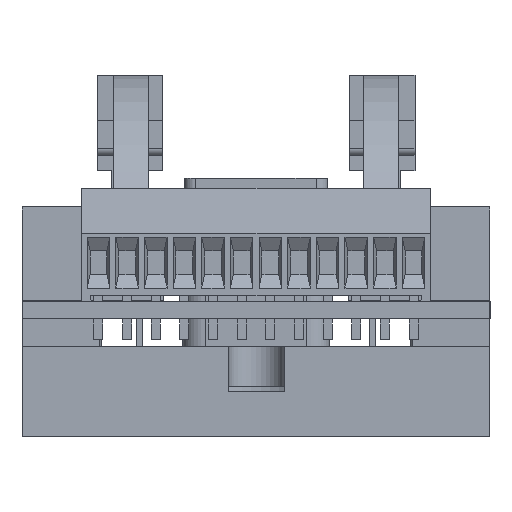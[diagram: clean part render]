
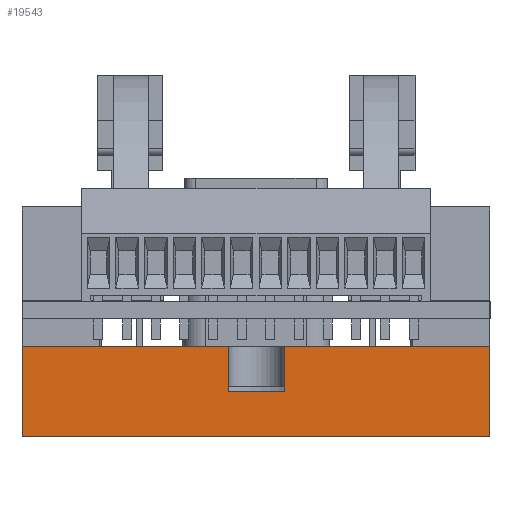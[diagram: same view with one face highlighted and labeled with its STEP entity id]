
A CAD part, front view. The second image highlights one B-rep face of the part: STEP entity #19543.
In plain terms, the highlighted planar face has unit normal (0, -1, 0) as drawn and (0, 1, 0) by its records, which use the part's own axes.
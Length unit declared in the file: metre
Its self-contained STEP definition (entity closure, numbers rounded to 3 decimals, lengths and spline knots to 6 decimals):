
#1706=LINE('',#31212,#3933);
#1707=LINE('',#31215,#3934);
#1708=LINE('',#31217,#3935);
#1709=LINE('',#31219,#3936);
#1710=LINE('',#31221,#3937);
#1711=LINE('',#31223,#3938);
#1712=LINE('',#31225,#3939);
#1713=LINE('',#31227,#3940);
#3933=VECTOR('',#25795,1.);
#3934=VECTOR('',#25796,1.);
#3935=VECTOR('',#25797,1.);
#3936=VECTOR('',#25798,1.);
#3937=VECTOR('',#25799,1.);
#3938=VECTOR('',#25800,1.);
#3939=VECTOR('',#25801,1.);
#3940=VECTOR('',#25802,1.);
#7657=ORIENTED_EDGE('',*,*,#11623,.F.);
#7658=ORIENTED_EDGE('',*,*,#11624,.T.);
#7659=ORIENTED_EDGE('',*,*,#11625,.F.);
#7660=ORIENTED_EDGE('',*,*,#11626,.F.);
#7661=ORIENTED_EDGE('',*,*,#11627,.T.);
#7662=ORIENTED_EDGE('',*,*,#11628,.T.);
#7663=ORIENTED_EDGE('',*,*,#11629,.F.);
#7664=ORIENTED_EDGE('',*,*,#11630,.F.);
#11623=EDGE_CURVE('',#13849,#13850,#1706,.T.);
#11624=EDGE_CURVE('',#13849,#13851,#1707,.T.);
#11625=EDGE_CURVE('',#13852,#13851,#1708,.T.);
#11626=EDGE_CURVE('',#13853,#13852,#1709,.T.);
#11627=EDGE_CURVE('',#13853,#13854,#1710,.T.);
#11628=EDGE_CURVE('',#13854,#13855,#1711,.T.);
#11629=EDGE_CURVE('',#13856,#13855,#1712,.T.);
#11630=EDGE_CURVE('',#13850,#13856,#1713,.T.);
#13849=VERTEX_POINT('',#31213);
#13850=VERTEX_POINT('',#31214);
#13851=VERTEX_POINT('',#31216);
#13852=VERTEX_POINT('',#31218);
#13853=VERTEX_POINT('',#31220);
#13854=VERTEX_POINT('',#31222);
#13855=VERTEX_POINT('',#31224);
#13856=VERTEX_POINT('',#31226);
#15894=EDGE_LOOP('',(#7657,#7658,#7659,#7660,#7661,#7662,#7663,#7664));
#17350=FACE_BOUND('',#15894,.T.);
#18497=PLANE('',#22399);
#19543=ADVANCED_FACE('',(#17350),#18497,.T.);
#22399=AXIS2_PLACEMENT_3D('',#31211,#25793,#25794);
#25793=DIRECTION('',(0.,1.,0.));
#25794=DIRECTION('',(-1.,0.,0.));
#25795=DIRECTION('',(1.,0.,0.));
#25796=DIRECTION('',(0.,0.,-1.));
#25797=DIRECTION('',(1.,0.,0.));
#25798=DIRECTION('',(0.,0.,-1.));
#25799=DIRECTION('',(1.,0.,0.));
#25800=DIRECTION('',(0.,0.,-1.));
#25801=DIRECTION('',(1.,0.,0.));
#25802=DIRECTION('',(0.,0.,-1.));
#31211=CARTESIAN_POINT('',(0.,0.022,0.0105));
#31212=CARTESIAN_POINT('',(0.,0.022,0.0065));
#31213=CARTESIAN_POINT('',(-0.002482,0.022,0.0065));
#31214=CARTESIAN_POINT('',(0.0025,0.022,0.0065));
#31215=CARTESIAN_POINT('',(-0.002482,0.022,0.0065));
#31216=CARTESIAN_POINT('',(-0.002482,0.022,0.0025));
#31217=CARTESIAN_POINT('',(0.,0.022,0.0025));
#31218=CARTESIAN_POINT('',(-0.02075,0.022,0.0025));
#31219=CARTESIAN_POINT('',(-0.02075,0.022,0.0105));
#31220=CARTESIAN_POINT('',(-0.02075,0.022,0.0105));
#31221=CARTESIAN_POINT('',(0.,0.022,0.0105));
#31222=CARTESIAN_POINT('',(0.02075,0.022,0.0105));
#31223=CARTESIAN_POINT('',(0.02075,0.022,0.0105));
#31224=CARTESIAN_POINT('',(0.02075,0.022,0.0025));
#31225=CARTESIAN_POINT('',(0.,0.022,0.0025));
#31226=CARTESIAN_POINT('',(0.0025,0.022,0.0025));
#31227=CARTESIAN_POINT('',(0.0025,0.022,0.0065));
